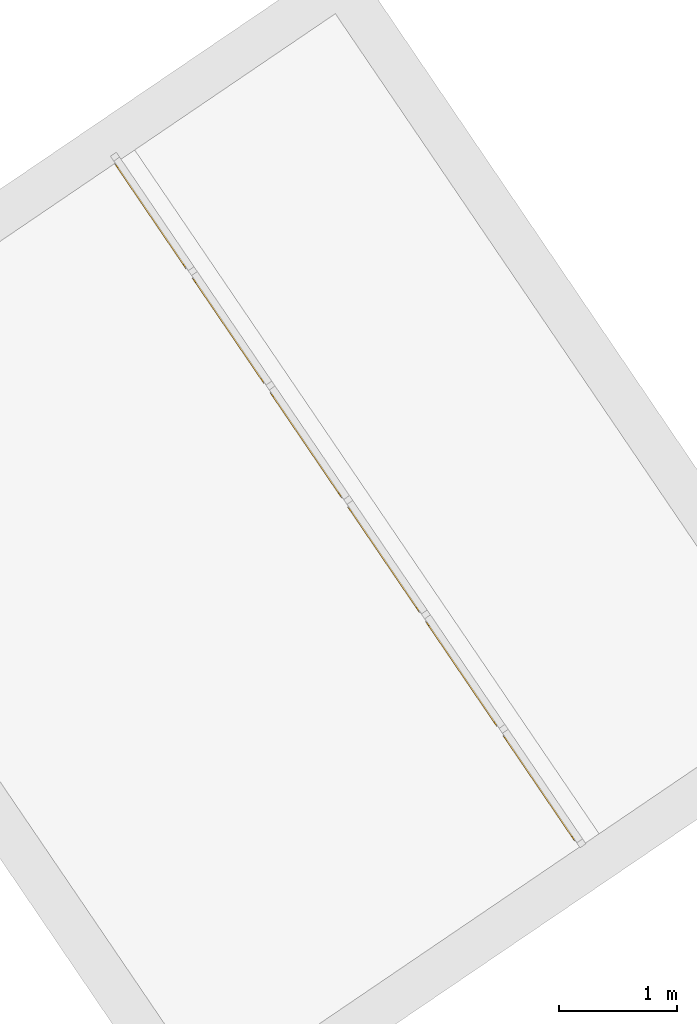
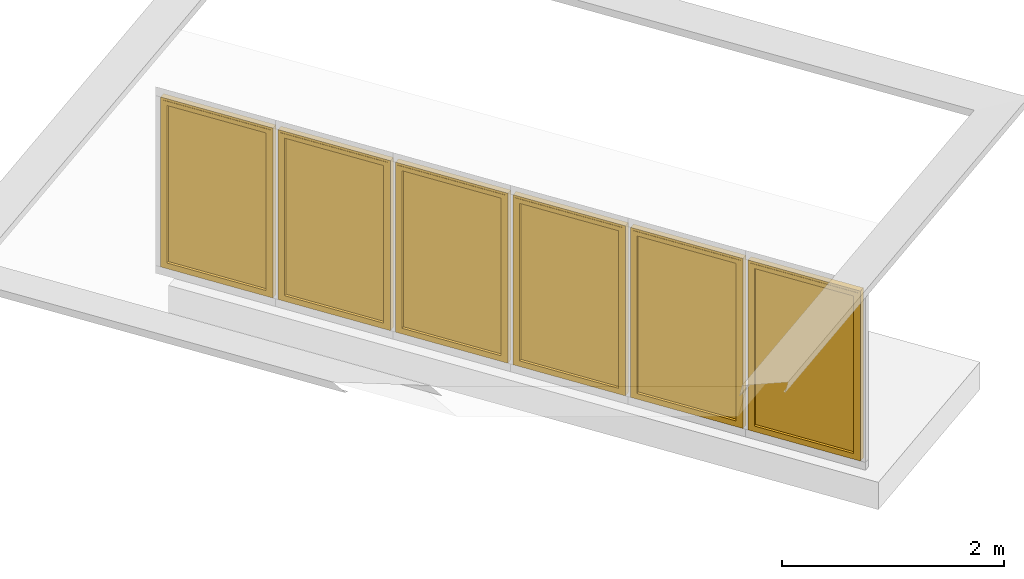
# One storey, part 22 of 28: 6 windows, 1 element without a shape of its own.
"""IFC2X3 building model written with IfcOpenShell, lengths in metres."""

from ifc_helpers import new_model, entity, si_unit, converted_unit, derived_unit, direction, frame, origin, place, context, subcontext, project, spatial, faceted_brep, source, transform, mapped, material, material_list, type_object, type_shapes, element, aggregate, save


model = new_model("IFC2X3")

# Units and contexts
model_context = context("Model", 3, precision=1e-05, world=origin(), true_north=direction((6.123031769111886e-17, 1.0)))
body_context = subcontext(model_context, "Body", "Model", "MODEL_VIEW")
ifc_project = project(units=[si_unit("LENGTHUNIT", "METRE"), si_unit("AREAUNIT", "SQUARE_METRE"), si_unit("VOLUMEUNIT", "CUBIC_METRE"), converted_unit("PLANEANGLEUNIT", "DEGREE", entity("IfcRatioMeasure", 0.017453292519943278), si_unit("PLANEANGLEUNIT", "RADIAN"), dimensions=[0, 0, 0, 0, 0, 0, 0]), si_unit("MASSUNIT", "GRAM", prefix="KILO"), derived_unit("MASSDENSITYUNIT", [(si_unit("MASSUNIT", "GRAM", prefix="KILO"), 1), (si_unit("LENGTHUNIT", "METRE"), -3)]), derived_unit("IONCONCENTRATIONUNIT", [(si_unit("MASSUNIT", "GRAM", prefix="KILO"), 1), (si_unit("LENGTHUNIT", "METRE"), -3)]), derived_unit("MOMENTOFINERTIAUNIT", [(si_unit("LENGTHUNIT", "METRE"), 4)]), si_unit("TIMEUNIT", "SECOND"), si_unit("FREQUENCYUNIT", "HERTZ"), si_unit("THERMODYNAMICTEMPERATUREUNIT", "DEGREE_CELSIUS"), derived_unit("THERMALTRANSMITTANCEUNIT", [(si_unit("MASSUNIT", "GRAM", prefix="KILO"), 1), (si_unit("THERMODYNAMICTEMPERATUREUNIT", "KELVIN"), -1), (si_unit("TIMEUNIT", "SECOND"), -3)]), derived_unit("THERMALCONDUCTANCEUNIT", [(si_unit("MASSUNIT", "GRAM", prefix="KILO"), 1), (si_unit("THERMODYNAMICTEMPERATUREUNIT", "KELVIN"), -1), (si_unit("TIMEUNIT", "SECOND"), -3), (si_unit("LENGTHUNIT", "METRE"), 1)]), derived_unit("VOLUMETRICFLOWRATEUNIT", [(si_unit("LENGTHUNIT", "METRE"), 3), (si_unit("TIMEUNIT", "SECOND"), -1)]), derived_unit("MASSFLOWRATEUNIT", [(si_unit("MASSUNIT", "GRAM", prefix="KILO"), 1), (si_unit("TIMEUNIT", "SECOND"), -1)]), derived_unit("ROTATIONALFREQUENCYUNIT", [(si_unit("TIMEUNIT", "SECOND"), -1)]), si_unit("ELECTRICCURRENTUNIT", "AMPERE"), si_unit("ELECTRICVOLTAGEUNIT", "VOLT"), si_unit("POWERUNIT", "WATT"), si_unit("FORCEUNIT", "NEWTON", prefix="KILO"), si_unit("ILLUMINANCEUNIT", "LUX"), si_unit("LUMINOUSFLUXUNIT", "LUMEN"), si_unit("LUMINOUSINTENSITYUNIT", "CANDELA"), derived_unit("USERDEFINED", [(si_unit("MASSUNIT", "GRAM", prefix="KILO"), -1), (si_unit("LENGTHUNIT", "METRE"), -2), (si_unit("TIMEUNIT", "SECOND"), 3), (si_unit("LUMINOUSFLUXUNIT", "LUMEN"), 1)]), derived_unit("USERDEFINED", [(si_unit("MASSUNIT", "GRAM", prefix="KILO"), 1), (si_unit("TIMEUNIT", "SECOND"), -3), (si_unit("LENGTHUNIT", "METRE"), 3), (si_unit("ELECTRICCURRENTUNIT", "AMPERE"), -2)]), derived_unit("SOUNDPOWERUNIT", [(si_unit("MASSUNIT", "GRAM", prefix="KILO"), 1), (si_unit("TIMEUNIT", "SECOND"), -3), (si_unit("LENGTHUNIT", "METRE"), 2)]), derived_unit("SOUNDPRESSUREUNIT", [(si_unit("MASSUNIT", "GRAM", prefix="KILO"), 1), (si_unit("LENGTHUNIT", "METRE"), -1), (si_unit("TIMEUNIT", "SECOND"), -2)]), derived_unit("LINEARVELOCITYUNIT", [(si_unit("LENGTHUNIT", "METRE"), 1), (si_unit("TIMEUNIT", "SECOND"), -1)]), si_unit("PRESSUREUNIT", "PASCAL"), derived_unit("USERDEFINED", [(si_unit("MASSUNIT", "GRAM", prefix="KILO"), 1), (si_unit("LENGTHUNIT", "METRE"), -2), (si_unit("TIMEUNIT", "SECOND"), -2)]), derived_unit("LINEARFORCEUNIT", [(si_unit("MASSUNIT", "GRAM", prefix="KILO"), 1), (si_unit("TIMEUNIT", "SECOND"), -2)]), derived_unit("PLANARFORCEUNIT", [(si_unit("MASSUNIT", "GRAM", prefix="KILO"), 1), (si_unit("LENGTHUNIT", "METRE"), -1), (si_unit("TIMEUNIT", "SECOND"), -2)]), derived_unit("SPECIFICHEATCAPACITYUNIT", [(si_unit("THERMODYNAMICTEMPERATUREUNIT", "KELVIN"), -1), (si_unit("LENGTHUNIT", "METRE"), 2), (si_unit("TIMEUNIT", "SECOND"), -2)]), derived_unit("HEATINGVALUEUNIT", [(si_unit("LENGTHUNIT", "METRE"), 2), (si_unit("TIMEUNIT", "SECOND"), -2)]), derived_unit("VAPORPERMEABILITYUNIT", [(si_unit("LENGTHUNIT", "METRE"), -1), (si_unit("TIMEUNIT", "SECOND"), 1)]), derived_unit("DYNAMICVISCOSITYUNIT", [(si_unit("MASSUNIT", "GRAM", prefix="KILO"), 1), (si_unit("TIMEUNIT", "SECOND"), -1), (si_unit("LENGTHUNIT", "METRE"), -1)]), derived_unit("THERMALEXPANSIONCOEFFICIENTUNIT", [(si_unit("THERMODYNAMICTEMPERATUREUNIT", "KELVIN"), -1)]), derived_unit("MODULUSOFELASTICITYUNIT", [(si_unit("MASSUNIT", "GRAM", prefix="KILO"), 1), (si_unit("LENGTHUNIT", "METRE"), -1), (si_unit("TIMEUNIT", "SECOND"), -2)]), derived_unit("ISOTHERMALMOISTURECAPACITYUNIT", [(si_unit("LENGTHUNIT", "METRE"), 3), (si_unit("MASSUNIT", "GRAM", prefix="KILO"), -1)]), derived_unit("MOISTUREDIFFUSIVITYUNIT", [(si_unit("TIMEUNIT", "SECOND"), -1), (si_unit("LENGTHUNIT", "METRE"), 2)])], contexts=[model_context])

# Site, building, storey
site_placement = place(None, frame((0.0, 0.0, 235.0), z_axis=(0.0, 0.0, 1.0), x_axis=(-0.7996477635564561, 0.6004693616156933, 0.0)))
site = spatial("IfcSite", under=ifc_project, at=site_placement, Name="Default", CompositionType="ELEMENT")
building_placement = place(site_placement, origin())
building = spatial("IfcBuilding", under=site, at=building_placement, CompositionType="ELEMENT")
storey_placement = place(building_placement, frame((0.0, 0.0, 3.400000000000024)))
storey = spatial("IfcBuildingStorey", under=building, at=storey_placement, Name="PC- Coberta STR", CompositionType="ELEMENT", Elevation=3.400000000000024)

# Curtain wall, windows
curtain_wall_type = type_object("IfcCurtainWallType", Name="Muro cortina:MC- EXT- MC8- Biblio", PredefinedType="NOTDEFINED")
curtain_wall_placement = place(storey_placement, frame((0.0, 0.0, -3.400000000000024)))
curtain_wall = element("IfcCurtainWall", 1, at=curtain_wall_placement, inside=storey, type_object=curtain_wall_type, Name="Muro cortina:MC- EXT- MC8- Biblio", ObjectType="Muro cortina:MC- EXT- MC8- Biblio")
ifc_material_1 = material(Name="_Vidre")
ifc_material_2 = material(Name="_Alumini- T1- Perfil")
ifc_material_list = material_list([ifc_material_1, ifc_material_2])
window_style = type_object("IfcWindowStyle", Name="MC- Alu- Conjunt finestra basculant- 68x68 cm:MC- Alu- Conjunt finestra basculant- 68x68 cm", ConstructionType="NOTDEFINED", OperationType="NOTDEFINED", ParameterTakesPrecedence=False, Sizeable=False, material=ifc_material_list)
shared_shape = source(origin(), body_context, "Body", "Brep", [
    faceted_brep([(0.510411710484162, -0.035598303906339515, 0.051999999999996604), (-0.5104117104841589, -0.03559830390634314, 0.051999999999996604), (-0.5104117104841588, -0.011598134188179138, 0.051999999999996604), (0.5104117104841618, -0.011598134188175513, 0.051999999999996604), (0.510411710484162, -0.035598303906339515, 1.8153027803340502), (0.5104117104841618, -0.011598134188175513, 1.8153027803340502), (-0.5104117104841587, -0.011598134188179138, 1.8153027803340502), (-0.5104117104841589, -0.03559830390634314, 1.8153027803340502)], [[[0, 1, 2, 3]], [[4, 0, 3, 5]], [[5, 3, 2, 6]], [[6, 2, 1, 7]], [[7, 1, 0, 4]], [[4, 5, 6, 7]]]),
    faceted_brep([(-0.49471088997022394, -0.009998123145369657, 1.799601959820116), (-0.49471088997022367, -0.009998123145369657, 0.06789804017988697), (-0.49471088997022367, -0.007998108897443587, 0.06789804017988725), (-0.49471088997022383, -0.007998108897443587, 1.7996019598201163), (-0.5236089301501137, -0.007998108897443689, 1.8285000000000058), (0.5236089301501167, -0.007998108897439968, 1.8285000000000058), (0.5236089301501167, -0.007998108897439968, 0.03899999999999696), (-0.5236089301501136, -0.007998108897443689, 0.03899999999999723), (0.4947108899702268, -0.00799810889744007, 1.7996019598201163), (0.4947108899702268, -0.00799810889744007, 0.06789804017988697), (0.4947108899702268, -0.00999812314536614, 0.06789804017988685), (0.49471088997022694, -0.00999812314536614, 1.799601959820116), (0.5104117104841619, -0.009998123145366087, 1.8153027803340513), (-0.5104117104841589, -0.009998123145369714, 1.8153027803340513), (-0.5104117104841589, -0.009998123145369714, 0.05219721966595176), (0.5104117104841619, -0.009998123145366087, 0.05219721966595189), (-0.5104117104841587, -0.040799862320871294, 1.8153027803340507), (-0.5104117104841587, -0.040799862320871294, 0.05219721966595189), (0.510411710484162, -0.04079986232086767, 0.05219721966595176), (0.510411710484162, -0.040799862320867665, 1.8153027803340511), (0.49471088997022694, -0.04079986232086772, 1.7996019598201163), (-0.49471088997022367, -0.04079986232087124, 1.7996019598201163), (-0.49471088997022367, -0.04079986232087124, 0.06789804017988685), (0.49471088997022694, -0.04079986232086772, 0.06789804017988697), (-0.4947108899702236, -0.06800005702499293, 1.7996019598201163), (-0.4947108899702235, -0.06800005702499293, 0.06789804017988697), (0.49471088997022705, -0.06800005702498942, 0.06789804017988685), (0.494710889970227, -0.0680000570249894, 1.7996019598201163), (0.5411128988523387, -0.06800005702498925, 1.8460039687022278), (-0.5411128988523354, -0.0680000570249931, 1.8460039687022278), (-0.5411128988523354, -0.0680000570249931, 0.021496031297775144), (0.5411128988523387, -0.06800005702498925, 0.021496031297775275), (-0.5411128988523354, -0.06450003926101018, 1.8460039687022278), (-0.5411128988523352, -0.06450003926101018, 0.021496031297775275), (0.5411128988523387, -0.06450003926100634, 0.021496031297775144), (0.5411128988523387, -0.06450003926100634, 1.8460039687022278), (0.5236089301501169, -0.0645000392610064, 1.828500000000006), (-0.5236089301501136, -0.06450003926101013, 1.828500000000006), (-0.5236089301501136, -0.06450003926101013, 0.03899999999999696), (0.5236089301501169, -0.0645000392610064, 0.03899999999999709)], [[[0, 1, 2, 3]], [[4, 5, 6, 7], [8, 3, 2, 9]], [[1, 10, 9, 2]], [[0, 11, 10, 1], [12, 13, 14, 15]], [[16, 17, 14, 13]], [[17, 18, 15, 14]], [[16, 19, 18, 17], [20, 21, 22, 23]], [[24, 25, 22, 21]], [[25, 26, 23, 22]], [[24, 27, 26, 25], [28, 29, 30, 31]], [[32, 33, 30, 29]], [[33, 34, 31, 30]], [[32, 35, 34, 33], [36, 37, 38, 39]], [[4, 7, 38, 37]], [[7, 6, 39, 38]], [[10, 11, 8, 9]], [[18, 19, 12, 15]], [[26, 27, 20, 23]], [[34, 35, 28, 31]], [[6, 5, 36, 39]], [[11, 0, 3, 8]], [[19, 16, 13, 12]], [[27, 24, 21, 20]], [[35, 32, 29, 28]], [[5, 4, 37, 36]]], outer=[[True], [True, False], [True], [False, True], [True], [True], [True, False], [True], [True], [False, True], [True], [True], [True, False], [True], [True], [True], [True], [True], [True], [True], [True], [True], [True], [True], [True]]),
    faceted_brep([(0.4996931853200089, 0.0, 1.8046931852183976), (0.49969318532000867, 0.0, 0.06280681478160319), (0.49969318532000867, -0.0040000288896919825, 0.06280681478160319), (0.49969318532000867, -0.0040000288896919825, 1.8046931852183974), (-0.49969318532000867, -0.0040000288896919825, 1.8046931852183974), (-0.49969318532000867, -0.0040000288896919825, 0.06280681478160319), (0.5350998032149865, -0.0040000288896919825, 1.8400998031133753), (-0.5350998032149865, -0.0040000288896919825, 1.8400998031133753), (-0.5350998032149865, -0.0040000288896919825, 0.02740019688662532), (0.5350998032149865, -0.0040000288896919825, 0.027400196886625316), (-0.49969318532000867, 0.0, 0.06280681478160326), (-0.4996931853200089, 0.0, 1.8046931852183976), (-0.5625000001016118, 0.0, 1.8675000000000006), (0.5625000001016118, 0.0, 1.8675000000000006), (0.5625000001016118, 0.0, 0.0), (-0.5625000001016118, 0.0, 0.0), (0.5625000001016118, -0.05999999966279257, 1.8675000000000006), (0.5625000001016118, -0.05999999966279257, 0.0), (-0.5625000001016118, -0.05999999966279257, 0.0), (-0.5625000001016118, -0.05999999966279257, 1.8675000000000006), (-0.5350998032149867, -0.05999999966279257, 1.8400998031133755), (0.5350998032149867, -0.05999999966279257, 1.8400998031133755), (0.5350998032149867, -0.05999999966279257, 0.02740019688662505), (-0.5350998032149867, -0.05999999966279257, 0.027400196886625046)], [[[0, 1, 2, 3]], [[4, 3, 2, 5], [6, 7, 8, 9]], [[1, 10, 5, 2]], [[0, 11, 10, 1], [12, 13, 14, 15]], [[16, 17, 14, 13]], [[17, 18, 15, 14]], [[16, 19, 18, 17], [20, 21, 22, 23]], [[6, 9, 22, 21]], [[9, 8, 23, 22]], [[10, 11, 4, 5]], [[18, 19, 12, 15]], [[8, 7, 20, 23]], [[11, 0, 3, 4]], [[19, 16, 13, 12]], [[7, 6, 21, 20]]], outer=[[True], [False, True], [True], [False, True], [True], [True], [True, False], [True], [True], [True], [True], [True], [True], [True], [True]]),
])
type_shapes(window_style, [shared_shape])
window_1_placement = place(curtain_wall_placement, frame((59.52683973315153, -48.710514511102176, 4.035000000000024), z_axis=(0.0, 0.0, 1.0), x_axis=(-0.9460037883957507, 0.3241555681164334, 0.0)))
window_1 = element("IfcWindow", 2, at=window_1_placement, type_object=window_style, material=ifc_material_list, Name="MC- Alu- Conjunt finestra basculant- 68x68 cm:MC- Alu- Conjunt finestra basculant- 68x68 cm", ObjectType="MC- Alu- Conjunt finestra basculant- 68x68 cm:MC- Alu- Conjunt finestra basculant- 68x68 cm", OverallHeight=1.8675000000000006, OverallWidth=1.1250000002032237, context=body_context, shape_type="MappedRepresentation", body=[
    mapped(shared_shape, transform((0.0, 0.0, 0.0), scale=1.0)),
])
window_2_placement = place(curtain_wall_placement, frame((60.6383941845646, -49.091397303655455, 4.035000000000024), z_axis=(0.0, 0.0, 1.0), x_axis=(-0.9460037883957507, 0.3241555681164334, 0.0)))
window_2 = element("IfcWindow", 3, at=window_2_placement, type_object=window_style, material=ifc_material_list, Name="MC- Alu- Conjunt finestra basculant- 68x68 cm:MC- Alu- Conjunt finestra basculant- 68x68 cm", ObjectType="MC- Alu- Conjunt finestra basculant- 68x68 cm:MC- Alu- Conjunt finestra basculant- 68x68 cm", OverallHeight=1.8675000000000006, OverallWidth=1.1250000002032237, context=body_context, shape_type="MappedRepresentation", body=[
    mapped(shared_shape, transform((0.0, 0.0, 0.0), scale=1.0)),
])
window_3_placement = place(curtain_wall_placement, frame((61.74994863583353, -49.47228009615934, 4.035000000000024), z_axis=(0.0, 0.0, 1.0), x_axis=(-0.9460037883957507, 0.3241555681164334, 0.0)))
window_3 = element("IfcWindow", 4, at=window_3_placement, type_object=window_style, material=ifc_material_list, Name="MC- Alu- Conjunt finestra basculant- 68x68 cm:MC- Alu- Conjunt finestra basculant- 68x68 cm", ObjectType="MC- Alu- Conjunt finestra basculant- 68x68 cm:MC- Alu- Conjunt finestra basculant- 68x68 cm", OverallHeight=1.8675000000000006, OverallWidth=1.1250000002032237, context=body_context, shape_type="MappedRepresentation", body=[
    mapped(shared_shape, transform((0.0, 0.0, 0.0), scale=1.0)),
])
window_4_placement = place(curtain_wall_placement, frame((62.861503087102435, -49.85316288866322, 4.035000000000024), z_axis=(0.0, 0.0, 1.0), x_axis=(-0.9460037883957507, 0.3241555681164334, 0.0)))
window_4 = element("IfcWindow", 5, at=window_4_placement, type_object=window_style, material=ifc_material_list, Name="MC- Alu- Conjunt finestra basculant- 68x68 cm:MC- Alu- Conjunt finestra basculant- 68x68 cm", ObjectType="MC- Alu- Conjunt finestra basculant- 68x68 cm:MC- Alu- Conjunt finestra basculant- 68x68 cm", OverallHeight=1.8675000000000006, OverallWidth=1.1250000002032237, context=body_context, shape_type="MappedRepresentation", body=[
    mapped(shared_shape, transform((0.0, 0.0, 0.0), scale=1.0)),
])
window_5_placement = place(curtain_wall_placement, frame((63.97305753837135, -50.2340456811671, 4.035000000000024), z_axis=(0.0, 0.0, 1.0), x_axis=(-0.9460037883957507, 0.3241555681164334, 0.0)))
window_5 = element("IfcWindow", 6, at=window_5_placement, type_object=window_style, material=ifc_material_list, Name="MC- Alu- Conjunt finestra basculant- 68x68 cm:MC- Alu- Conjunt finestra basculant- 68x68 cm", ObjectType="MC- Alu- Conjunt finestra basculant- 68x68 cm:MC- Alu- Conjunt finestra basculant- 68x68 cm", OverallHeight=1.8675000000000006, OverallWidth=1.1250000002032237, context=body_context, shape_type="MappedRepresentation", body=[
    mapped(shared_shape, transform((0.0, 0.0, 0.0), scale=1.0)),
])
window_6_placement = place(curtain_wall_placement, frame((65.08461198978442, -50.61492847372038, 4.035000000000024), z_axis=(0.0, 0.0, 1.0), x_axis=(-0.9460037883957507, 0.3241555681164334, 0.0)))
window_6 = element("IfcWindow", 7, at=window_6_placement, type_object=window_style, material=ifc_material_list, Name="MC- Alu- Conjunt finestra basculant- 68x68 cm:MC- Alu- Conjunt finestra basculant- 68x68 cm", ObjectType="MC- Alu- Conjunt finestra basculant- 68x68 cm:MC- Alu- Conjunt finestra basculant- 68x68 cm", OverallHeight=1.8675000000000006, OverallWidth=1.1250000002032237, context=body_context, shape_type="MappedRepresentation", body=[
    mapped(shared_shape, transform((0.0, 0.0, 0.0), scale=1.0)),
])
aggregate(curtain_wall, [window_1, window_2, window_3, window_4, window_5, window_6])

save(model, "model.ifc")
